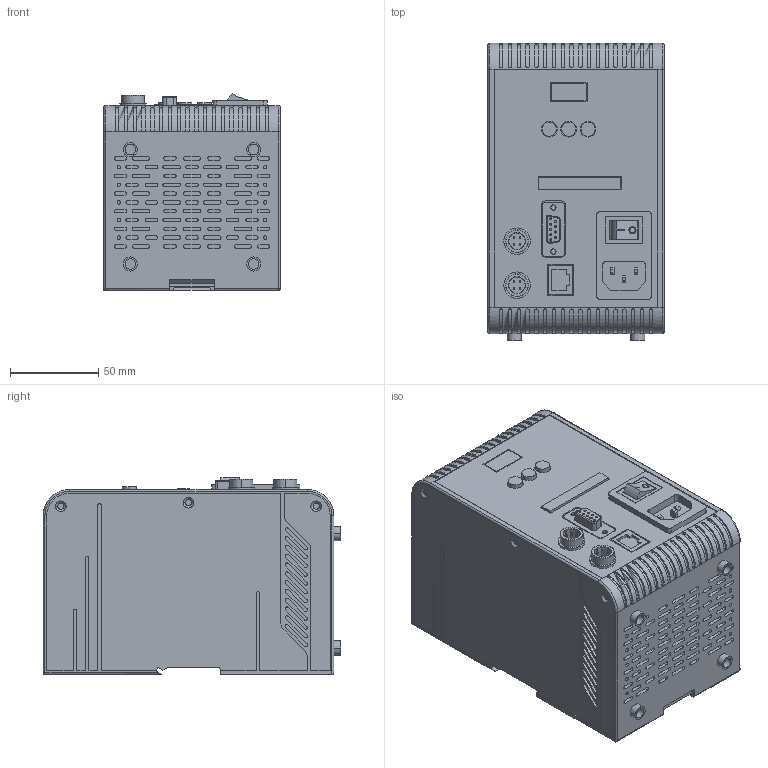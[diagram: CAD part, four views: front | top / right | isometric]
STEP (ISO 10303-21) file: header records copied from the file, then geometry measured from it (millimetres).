
FILE_DESCRIPTION((''),'2;1');
FILE_NAME('LS-LEVD-200-2-PY','2019-12-24T',('LumaSpec Vision'),('LumaSpec Vision'),'PRO/ENGINEER BY PARAMETRIC TECHNOLOGY CORPORATION, 2015240','PRO/ENGINEER BY PARAMETRIC TECHNOLOGY CORPORATION, 2015240','');
FILE_SCHEMA(('CONFIG_CONTROL_DESIGN'));
Length unit declared in the file: millimetre
Products named in the file (3): 4T; RS232; ASM0001_ASM
Assembly tree (2 placements, depth 2):
  ASM0001_ASM
    4T
    RS232
Bounding box: 100 x 169 x 111.8 mm (x, y, z)
Volume: 1663421.4 mm3; surface area: 112190.6 mm2
Topology: 2 solids, 9 shells, 2000 faces, 4871 edges, 3200 vertices
Faces by surface type: plane 1160, cylinder 763, bspline 28, cone 26, torus 20, sphere 3
Entity records: 60311 total; most frequent: CARTESIAN_POINT 12245, DIRECTION 10088, ORIENTED_EDGE 9734, EDGE_CURVE 4867, AXIS2_PLACEMENT_3D 3484, VERTEX_POINT 3198, VECTOR 3120, LINE 3120
